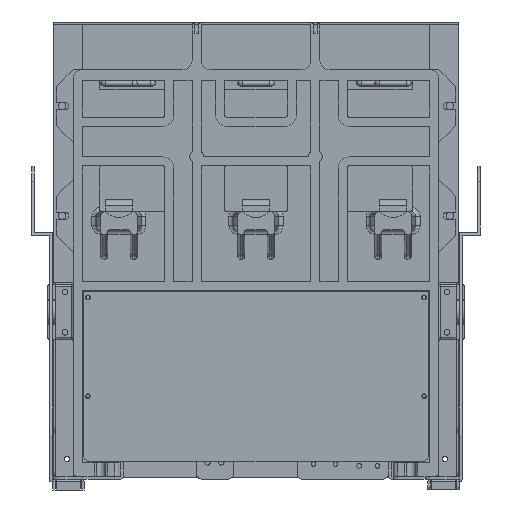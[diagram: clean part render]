
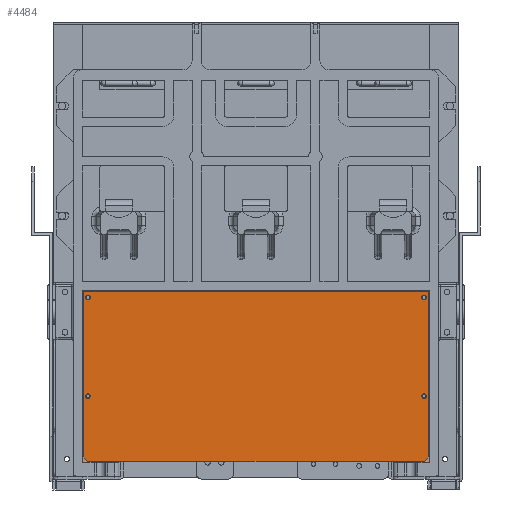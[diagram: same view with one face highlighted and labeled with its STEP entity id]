
A CAD part, left-side view. The second image highlights one B-rep face of the part: STEP entity #4484.
In plain terms, the highlighted planar face has unit normal (-1, 0, 0) as drawn and (0, 0, -1) by its records, which use the part's own axes.
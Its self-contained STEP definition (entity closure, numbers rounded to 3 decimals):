
#4484=ADVANCED_FACE('',(#9465,#9466,#9467,#9468,#9469),#5102,.F.);
#5102=PLANE('',#24015);
#6896=LINE('',#36125,#8769);
#6902=LINE('',#36139,#8775);
#6904=LINE('',#36143,#8777);
#6907=LINE('',#36164,#8780);
#6912=LINE('',#36178,#8785);
#6913=LINE('',#36179,#8786);
#8769=VECTOR('',#29405,1.);
#8775=VECTOR('',#29413,1.);
#8777=VECTOR('',#29417,1.);
#8780=VECTOR('',#29440,1.);
#8785=VECTOR('',#29455,1.);
#8786=VECTOR('',#29456,1.);
#9465=FACE_BOUND('',#10847,.T.);
#9466=FACE_BOUND('',#10848,.T.);
#9467=FACE_BOUND('',#10849,.T.);
#9468=FACE_BOUND('',#10850,.T.);
#9469=FACE_BOUND('',#10851,.T.);
#10847=EDGE_LOOP('',(#16156,#16157,#16158,#16159,#16160,#16161));
#10848=EDGE_LOOP('',(#16162));
#10849=EDGE_LOOP('',(#16163));
#10850=EDGE_LOOP('',(#16164));
#10851=EDGE_LOOP('',(#16165));
#16156=ORIENTED_EDGE('',*,*,#21152,.F.);
#16157=ORIENTED_EDGE('',*,*,#21170,.T.);
#16158=ORIENTED_EDGE('',*,*,#21146,.F.);
#16159=ORIENTED_EDGE('',*,*,#21171,.T.);
#16160=ORIENTED_EDGE('',*,*,#21163,.F.);
#16161=ORIENTED_EDGE('',*,*,#21154,.F.);
#16162=ORIENTED_EDGE('',*,*,#21162,.T.);
#16163=ORIENTED_EDGE('',*,*,#21160,.T.);
#16164=ORIENTED_EDGE('',*,*,#21158,.T.);
#16165=ORIENTED_EDGE('',*,*,#21167,.T.);
#18394=VERTEX_POINT('',#36126);
#18395=VERTEX_POINT('',#36127);
#18400=VERTEX_POINT('',#36138);
#18401=VERTEX_POINT('',#36140);
#18402=VERTEX_POINT('',#36144);
#18405=VERTEX_POINT('',#36152);
#18407=VERTEX_POINT('',#36157);
#18409=VERTEX_POINT('',#36162);
#18410=VERTEX_POINT('',#36165);
#18413=VERTEX_POINT('',#36173);
#21146=EDGE_CURVE('',#18394,#18395,#6896,.T.);
#21152=EDGE_CURVE('',#18400,#18401,#6902,.T.);
#21154=EDGE_CURVE('',#18401,#18402,#6904,.T.);
#21158=EDGE_CURVE('',#18405,#18405,#22162,.T.);
#21160=EDGE_CURVE('',#18407,#18407,#22164,.T.);
#21162=EDGE_CURVE('',#18409,#18409,#22166,.T.);
#21163=EDGE_CURVE('',#18402,#18410,#6907,.T.);
#21167=EDGE_CURVE('',#18413,#18413,#22168,.T.);
#21170=EDGE_CURVE('',#18400,#18395,#6912,.T.);
#21171=EDGE_CURVE('',#18394,#18410,#6913,.T.);
#22162=CIRCLE('',#24002,2.5);
#22164=CIRCLE('',#24005,2.5);
#22166=CIRCLE('',#24008,2.5);
#22168=CIRCLE('',#24012,2.5);
#24002=AXIS2_PLACEMENT_3D('',#36151,#29424,#29425);
#24005=AXIS2_PLACEMENT_3D('',#36156,#29430,#29431);
#24008=AXIS2_PLACEMENT_3D('',#36161,#29436,#29437);
#24012=AXIS2_PLACEMENT_3D('',#36172,#29447,#29448);
#24015=AXIS2_PLACEMENT_3D('',#36180,#29457,#29458);
#29405=DIRECTION('',(1.,0.,0.));
#29413=DIRECTION('',(0.,1.,0.));
#29417=DIRECTION('',(-1.,0.,0.));
#29424=DIRECTION('',(0.,0.,1.));
#29425=DIRECTION('',(1.,0.,0.));
#29430=DIRECTION('',(0.,0.,1.));
#29431=DIRECTION('',(1.,0.,0.));
#29436=DIRECTION('',(0.,0.,1.));
#29437=DIRECTION('',(1.,0.,0.));
#29440=DIRECTION('',(0.,-1.,0.));
#29447=DIRECTION('',(0.,0.,1.));
#29448=DIRECTION('',(1.,0.,0.));
#29455=DIRECTION('',(-0.707,-0.707,0.));
#29456=DIRECTION('',(-0.707,0.707,0.));
#29457=DIRECTION('',(0.,0.,1.));
#29458=DIRECTION('',(1.,0.,0.));
#36125=CARTESIAN_POINT('',(189.,0.,0.));
#36126=CARTESIAN_POINT('',(5.,0.,0.));
#36127=CARTESIAN_POINT('',(373.,0.,0.));
#36138=CARTESIAN_POINT('',(378.,5.,0.));
#36139=CARTESIAN_POINT('',(378.,93.,0.));
#36140=CARTESIAN_POINT('',(378.,186.,0.));
#36143=CARTESIAN_POINT('',(189.,186.,0.));
#36144=CARTESIAN_POINT('',(0.,186.,0.));
#36151=CARTESIAN_POINT('',(373.,71.5,0.));
#36152=CARTESIAN_POINT('',(375.5,71.5,0.));
#36156=CARTESIAN_POINT('',(5.,179.5,0.));
#36157=CARTESIAN_POINT('',(7.5,179.5,0.));
#36161=CARTESIAN_POINT('',(5.,71.5,0.));
#36162=CARTESIAN_POINT('',(7.5,71.5,0.));
#36164=CARTESIAN_POINT('',(0.,186.,0.));
#36165=CARTESIAN_POINT('',(0.,5.,0.));
#36172=CARTESIAN_POINT('',(373.,179.5,0.));
#36173=CARTESIAN_POINT('',(375.5,179.5,0.));
#36178=CARTESIAN_POINT('',(378.,5.,0.));
#36179=CARTESIAN_POINT('',(5.,0.,0.));
#36180=CARTESIAN_POINT('',(5.,71.5,0.));
